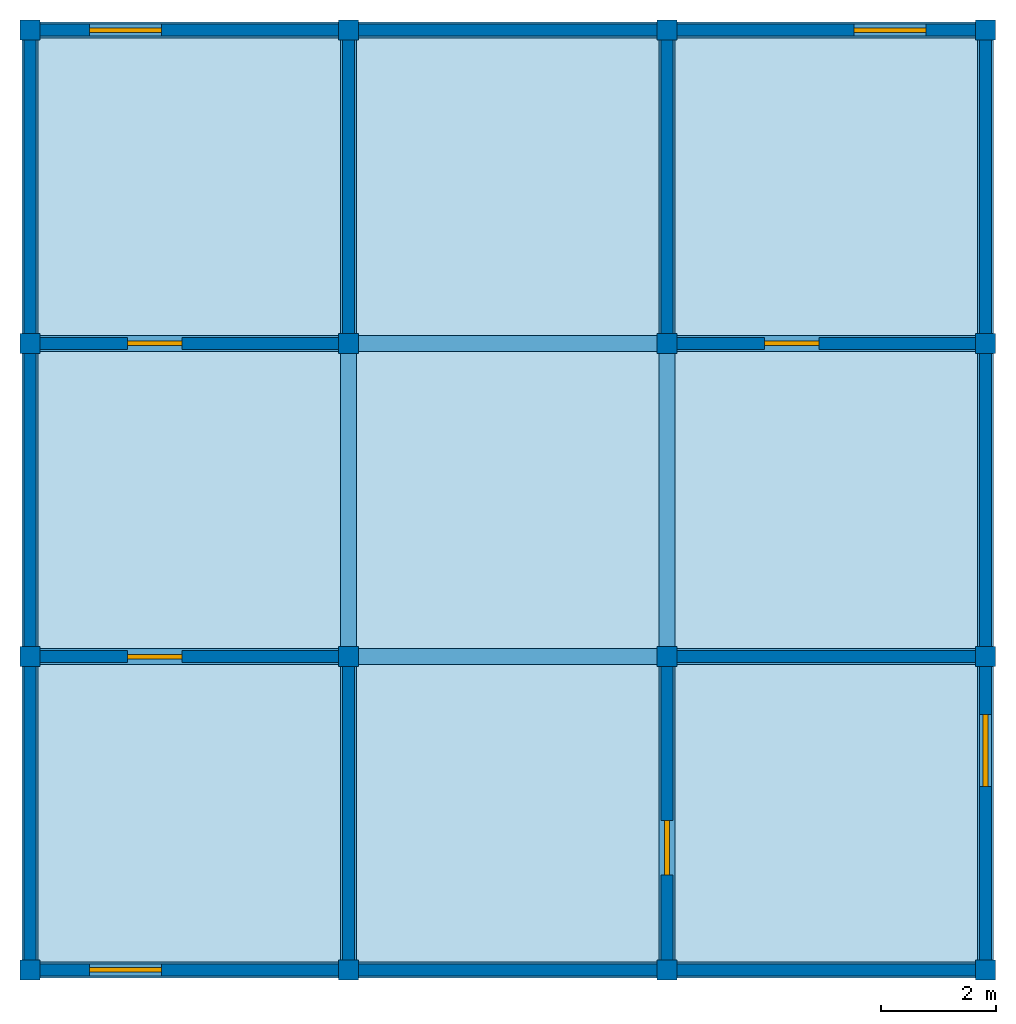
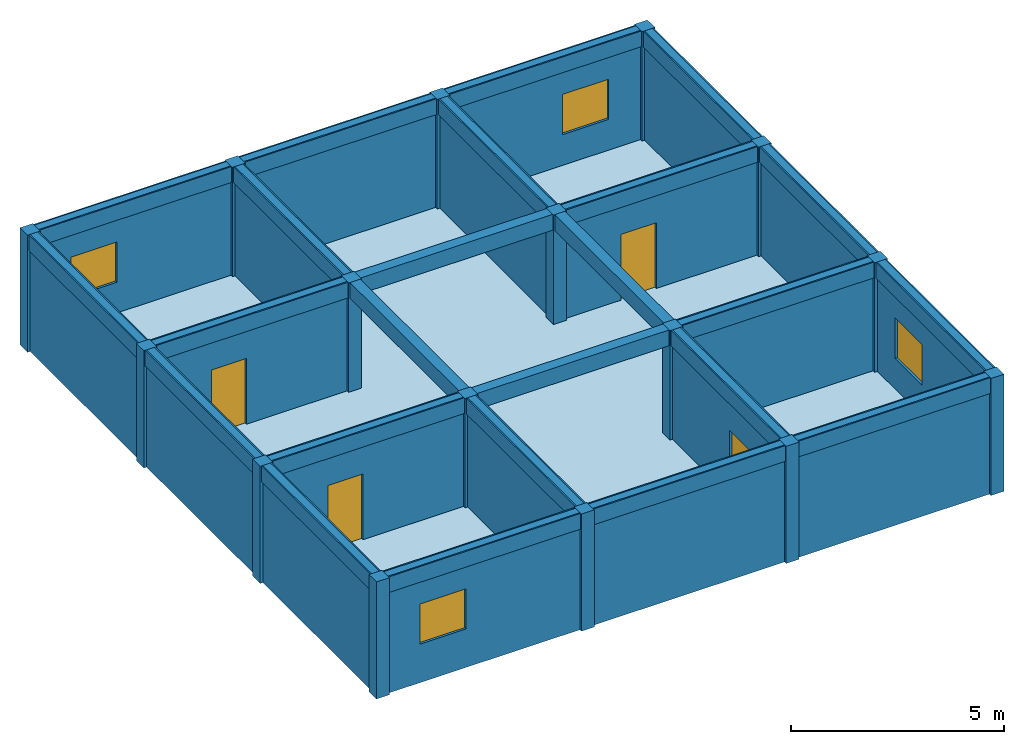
# One storey: 24 beams, 20 walls, 16 columns, 4 doors, 4 windows, 1 slab, 8 openings.
"""IFC4X3 building model written with IfcOpenShell, lengths in metres."""

from ifc_helpers import new_model, si_unit, frame, origin_with_axes, origin_2d, place, context, project, spatial, rectangle, extrude, material, element, fill, save


model = new_model("IFC4X3")

# Units and contexts
model_context = context("Model", 3, precision=1e-05, world=origin_with_axes())
ifc_project = project(units=[si_unit("LENGTHUNIT", "METRE"), si_unit("AREAUNIT", "SQUARE_METRE"), si_unit("VOLUMEUNIT", "CUBIC_METRE")], contexts=[model_context])

# Site, building, storey
site = spatial("IfcSite", under=ifc_project, Name="La Serena Parcel", CompositionType="ELEMENT")
building = spatial("IfcBuilding", under=site, Name="Atlas Building", CompositionType="ELEMENT")
storey = spatial("IfcBuildingStorey", under=building, Name="Level 2", CompositionType="ELEMENT", Elevation=3.35)

# Columns
ifc_material_1 = material(Name="Timber")
column_1_placement = place(None, frame((-8.31, -8.175, 3.349), z_axis=(0.0, 0.0, 1.0), x_axis=(1.0, 0.0, 0.0)))
element("IfcColumn", 1, at=column_1_placement, inside=storey, material=ifc_material_1, Name="Column 2.1", ObjectType="Structural Column", PredefinedType="NOTDEFINED", context=model_context, shape_type="SweptSolid", body=[
    extrude(rectangle(XDim=0.35, YDim=0.35, at=origin_2d()), origin_with_axes(), (0.0, 0.0, 1.0), 3.349),
])
column_2_placement = place(None, frame((-8.31, -2.725, 3.349), z_axis=(0.0, 0.0, 1.0), x_axis=(1.0, 0.0, 0.0)))
element("IfcColumn", 2, at=column_2_placement, inside=storey, material=ifc_material_1, Name="Column 2.2", ObjectType="Core Column", PredefinedType="COLUMN", context=model_context, shape_type="SweptSolid", body=[
    extrude(rectangle(XDim=0.35, YDim=0.35, at=origin_2d()), origin_with_axes(), (0.0, 0.0, 1.0), 3.349),
])
column_3_placement = place(None, frame((-8.31, 2.725, 3.349), z_axis=(0.0, 0.0, 1.0), x_axis=(1.0, 0.0, 0.0)))
element("IfcColumn", 3, at=column_3_placement, inside=storey, material=ifc_material_1, Name="Column 2.3", ObjectType="Facade Column", PredefinedType="COLUMN", context=model_context, shape_type="SweptSolid", body=[
    extrude(rectangle(XDim=0.35, YDim=0.35, at=origin_2d()), origin_with_axes(), (0.0, 0.0, 1.0), 3.349),
])
column_4_placement = place(None, frame((-8.31, 8.175, 3.349), z_axis=(0.0, 0.0, 1.0), x_axis=(1.0, 0.0, 0.0)))
element("IfcColumn", 4, at=column_4_placement, inside=storey, material=ifc_material_1, Name="Column 2.4", ObjectType="Facade Column", PredefinedType="NOTDEFINED", context=model_context, shape_type="SweptSolid", body=[
    extrude(rectangle(XDim=0.35, YDim=0.35, at=origin_2d()), origin_with_axes(), (0.0, 0.0, 1.0), 3.349),
])
column_5_placement = place(None, frame((-2.77, -8.175, 3.349), z_axis=(0.0, 0.0, 1.0), x_axis=(1.0, 0.0, 0.0)))
element("IfcColumn", 5, at=column_5_placement, inside=storey, material=ifc_material_1, Name="Column 2.5", ObjectType="Structural Column", PredefinedType="PILASTER", context=model_context, shape_type="SweptSolid", body=[
    extrude(rectangle(XDim=0.35, YDim=0.35, at=origin_2d()), origin_with_axes(), (0.0, 0.0, 1.0), 3.349),
])
column_6_placement = place(None, frame((-2.77, -2.725, 3.349), z_axis=(0.0, 0.0, 1.0), x_axis=(1.0, 0.0, 0.0)))
element("IfcColumn", 6, at=column_6_placement, inside=storey, material=ifc_material_1, Name="Column 2.6", ObjectType="Core Column", PredefinedType="NOTDEFINED", context=model_context, shape_type="SweptSolid", body=[
    extrude(rectangle(XDim=0.35, YDim=0.35, at=origin_2d()), origin_with_axes(), (0.0, 0.0, 1.0), 3.349),
])
column_7_placement = place(None, frame((-2.77, 2.725, 3.349), z_axis=(0.0, 0.0, 1.0), x_axis=(1.0, 0.0, 0.0)))
element("IfcColumn", 7, at=column_7_placement, inside=storey, material=ifc_material_1, Name="Column 2.7", ObjectType="Structural Column", PredefinedType="USERDEFINED", context=model_context, shape_type="SweptSolid", body=[
    extrude(rectangle(XDim=0.35, YDim=0.35, at=origin_2d()), origin_with_axes(), (0.0, 0.0, 1.0), 3.349),
])
column_8_placement = place(None, frame((-2.77, 8.175, 3.349), z_axis=(0.0, 0.0, 1.0), x_axis=(1.0, 0.0, 0.0)))
element("IfcColumn", 8, at=column_8_placement, inside=storey, material=ifc_material_1, Name="Column 2.8", ObjectType="Core Column", PredefinedType="PILASTER", context=model_context, shape_type="SweptSolid", body=[
    extrude(rectangle(XDim=0.35, YDim=0.35, at=origin_2d()), origin_with_axes(), (0.0, 0.0, 1.0), 3.349),
])
column_9_placement = place(None, frame((2.77, -8.175, 3.349), z_axis=(0.0, 0.0, 1.0), x_axis=(1.0, 0.0, 0.0)))
element("IfcColumn", 9, at=column_9_placement, inside=storey, material=ifc_material_1, Name="Column 2.9", ObjectType="Facade Column", PredefinedType="COLUMN", context=model_context, shape_type="SweptSolid", body=[
    extrude(rectangle(XDim=0.35, YDim=0.35, at=origin_2d()), origin_with_axes(), (0.0, 0.0, 1.0), 3.349),
])
column_10_placement = place(None, frame((2.77, -2.725, 3.349), z_axis=(0.0, 0.0, 1.0), x_axis=(1.0, 0.0, 0.0)))
element("IfcColumn", 10, at=column_10_placement, inside=storey, material=ifc_material_1, Name="Column 2.10", ObjectType="Corner Column", PredefinedType="PILASTER", context=model_context, shape_type="SweptSolid", body=[
    extrude(rectangle(XDim=0.35, YDim=0.35, at=origin_2d()), origin_with_axes(), (0.0, 0.0, 1.0), 3.349),
])
column_11_placement = place(None, frame((2.77, 2.725, 3.349), z_axis=(0.0, 0.0, 1.0), x_axis=(1.0, 0.0, 0.0)))
element("IfcColumn", 11, at=column_11_placement, inside=storey, material=ifc_material_1, Name="Column 2.11", ObjectType="Core Column", PredefinedType="COLUMN", context=model_context, shape_type="SweptSolid", body=[
    extrude(rectangle(XDim=0.35, YDim=0.35, at=origin_2d()), origin_with_axes(), (0.0, 0.0, 1.0), 3.349),
])
column_12_placement = place(None, frame((2.77, 8.175, 3.349), z_axis=(0.0, 0.0, 1.0), x_axis=(1.0, 0.0, 0.0)))
element("IfcColumn", 12, at=column_12_placement, inside=storey, material=ifc_material_1, Name="Column 2.12", ObjectType="Facade Column", PredefinedType="PILASTER", context=model_context, shape_type="SweptSolid", body=[
    extrude(rectangle(XDim=0.35, YDim=0.35, at=origin_2d()), origin_with_axes(), (0.0, 0.0, 1.0), 3.349),
])
for number, where, z_axis, x_axis, name in (
    (13, (8.31, -8.175, 3.349), (0.0, 0.0, 1.0), (1.0, 0.0, 0.0), "Column 2.13"),
    (14, (8.31, -2.725, 3.349), (0.0, 0.0, 1.0), (1.0, 0.0, 0.0), "Column 2.14"),
):
    element("IfcColumn", number, at=place(None, frame(where, z_axis=z_axis, x_axis=x_axis)), inside=storey, material=ifc_material_1, Name=name, ObjectType="Facade Column", PredefinedType="COLUMN", context=model_context, shape_type="SweptSolid", body=[
        extrude(rectangle(XDim=0.35, YDim=0.35, at=origin_2d()), origin_with_axes(), (0.0, 0.0, 1.0), 3.349),
    ])
column_13_placement = place(None, frame((8.31, 2.725, 3.349), z_axis=(0.0, 0.0, 1.0), x_axis=(1.0, 0.0, 0.0)))
element("IfcColumn", 15, at=column_13_placement, inside=storey, material=ifc_material_1, Name="Column 2.15", ObjectType="Core Column", PredefinedType="COLUMN", context=model_context, shape_type="SweptSolid", body=[
    extrude(rectangle(XDim=0.35, YDim=0.35, at=origin_2d()), origin_with_axes(), (0.0, 0.0, 1.0), 3.349),
])
column_14_placement = place(None, frame((8.31, 8.175, 3.349), z_axis=(0.0, 0.0, 1.0), x_axis=(1.0, 0.0, 0.0)))
element("IfcColumn", 16, at=column_14_placement, inside=storey, material=ifc_material_1, Name="Column 2.16", ObjectType="Facade Column", PredefinedType="COLUMN", context=model_context, shape_type="SweptSolid", body=[
    extrude(rectangle(XDim=0.35, YDim=0.35, at=origin_2d()), origin_with_axes(), (0.0, 0.0, 1.0), 3.349),
])

# Beams
ifc_material_2 = material(Name="Concrete")
beam_1_placement = place(None, frame((-5.54, -8.175, 6.248), z_axis=(0.0, 0.0, 1.0), x_axis=(1.0, 0.0, 0.0)))
element("IfcBeam", 17, at=beam_1_placement, inside=storey, material=ifc_material_2, Name="Beam 2.1", ObjectType="Primary Beam", PredefinedType="USERDEFINED", context=model_context, shape_type="SweptSolid", body=[
    extrude(rectangle(XDim=5.54, YDim=0.28, at=origin_2d()), origin_with_axes(), (0.0, 0.0, 1.0), 0.45),
])
beam_2_placement = place(None, frame((0.0, -8.175, 6.248), z_axis=(0.0, 0.0, 1.0), x_axis=(1.0, 0.0, 0.0)))
element("IfcBeam", 18, at=beam_2_placement, inside=storey, material=ifc_material_2, Name="Beam 2.2", ObjectType="Ridge Beam", PredefinedType="USERDEFINED", context=model_context, shape_type="SweptSolid", body=[
    extrude(rectangle(XDim=5.54, YDim=0.28, at=origin_2d()), origin_with_axes(), (0.0, 0.0, 1.0), 0.45),
])
beam_3_placement = place(None, frame((5.54, -8.175, 6.248), z_axis=(0.0, 0.0, 1.0), x_axis=(1.0, 0.0, 0.0)))
element("IfcBeam", 19, at=beam_3_placement, inside=storey, material=ifc_material_2, Name="Beam 2.3", ObjectType="Rafter Beam", PredefinedType="T_BEAM", context=model_context, shape_type="SweptSolid", body=[
    extrude(rectangle(XDim=5.54, YDim=0.28, at=origin_2d()), origin_with_axes(), (0.0, 0.0, 1.0), 0.45),
])
beam_4_placement = place(None, frame((-5.54, -2.725, 6.248), z_axis=(0.0, 0.0, 1.0), x_axis=(1.0, 0.0, 0.0)))
element("IfcBeam", 20, at=beam_4_placement, inside=storey, material=ifc_material_2, Name="Beam 2.4", ObjectType="Ridge Beam", PredefinedType="HOLLOWCORE", context=model_context, shape_type="SweptSolid", body=[
    extrude(rectangle(XDim=5.54, YDim=0.28, at=origin_2d()), origin_with_axes(), (0.0, 0.0, 1.0), 0.45),
])
beam_5_placement = place(None, frame((0.0, -2.725, 6.248), z_axis=(0.0, 0.0, 1.0), x_axis=(1.0, 0.0, 0.0)))
element("IfcBeam", 21, at=beam_5_placement, inside=storey, material=ifc_material_2, Name="Beam 2.5", ObjectType="Ridge Beam", PredefinedType="NOTDEFINED", context=model_context, shape_type="SweptSolid", body=[
    extrude(rectangle(XDim=5.54, YDim=0.28, at=origin_2d()), origin_with_axes(), (0.0, 0.0, 1.0), 0.45),
])
beam_6_placement = place(None, frame((5.54, -2.725, 6.248), z_axis=(0.0, 0.0, 1.0), x_axis=(1.0, 0.0, 0.0)))
element("IfcBeam", 22, at=beam_6_placement, inside=storey, material=ifc_material_2, Name="Beam 2.6", ObjectType="Primary Beam", PredefinedType="T_BEAM", context=model_context, shape_type="SweptSolid", body=[
    extrude(rectangle(XDim=5.54, YDim=0.28, at=origin_2d()), origin_with_axes(), (0.0, 0.0, 1.0), 0.45),
])
beam_7_placement = place(None, frame((-5.54, 2.725, 6.248), z_axis=(0.0, 0.0, 1.0), x_axis=(1.0, 0.0, 0.0)))
element("IfcBeam", 23, at=beam_7_placement, inside=storey, material=ifc_material_2, Name="Beam 2.7", ObjectType="Rafter Beam", PredefinedType="LINTEL", context=model_context, shape_type="SweptSolid", body=[
    extrude(rectangle(XDim=5.54, YDim=0.28, at=origin_2d()), origin_with_axes(), (0.0, 0.0, 1.0), 0.45),
])
beam_8_placement = place(None, frame((0.0, 2.725, 6.248), z_axis=(0.0, 0.0, 1.0), x_axis=(1.0, 0.0, 0.0)))
element("IfcBeam", 24, at=beam_8_placement, inside=storey, material=ifc_material_2, Name="Beam 2.8", ObjectType="Transfer Beam", PredefinedType="SPANDREL", context=model_context, shape_type="SweptSolid", body=[
    extrude(rectangle(XDim=5.54, YDim=0.28, at=origin_2d()), origin_with_axes(), (0.0, 0.0, 1.0), 0.45),
])
beam_9_placement = place(None, frame((5.54, 2.725, 6.248), z_axis=(0.0, 0.0, 1.0), x_axis=(1.0, 0.0, 0.0)))
element("IfcBeam", 25, at=beam_9_placement, inside=storey, material=ifc_material_2, Name="Beam 2.9", ObjectType="Primary Beam", PredefinedType="LINTEL", context=model_context, shape_type="SweptSolid", body=[
    extrude(rectangle(XDim=5.54, YDim=0.28, at=origin_2d()), origin_with_axes(), (0.0, 0.0, 1.0), 0.45),
])
beam_10_placement = place(None, frame((-5.54, 8.175, 6.248), z_axis=(0.0, 0.0, 1.0), x_axis=(1.0, 0.0, 0.0)))
element("IfcBeam", 26, at=beam_10_placement, inside=storey, material=ifc_material_2, Name="Beam 2.10", ObjectType="Primary Beam", PredefinedType="USERDEFINED", context=model_context, shape_type="SweptSolid", body=[
    extrude(rectangle(XDim=5.54, YDim=0.28, at=origin_2d()), origin_with_axes(), (0.0, 0.0, 1.0), 0.45),
])
beam_11_placement = place(None, frame((0.0, 8.175, 6.248), z_axis=(0.0, 0.0, 1.0), x_axis=(1.0, 0.0, 0.0)))
element("IfcBeam", 27, at=beam_11_placement, inside=storey, material=ifc_material_2, Name="Beam 2.11", ObjectType="Primary Beam", PredefinedType="HOLLOWCORE", context=model_context, shape_type="SweptSolid", body=[
    extrude(rectangle(XDim=5.54, YDim=0.28, at=origin_2d()), origin_with_axes(), (0.0, 0.0, 1.0), 0.45),
])
beam_12_placement = place(None, frame((5.54, 8.175, 6.248), z_axis=(0.0, 0.0, 1.0), x_axis=(1.0, 0.0, 0.0)))
element("IfcBeam", 28, at=beam_12_placement, inside=storey, material=ifc_material_2, Name="Beam 2.12", ObjectType="Rafter Beam", PredefinedType="SPANDREL", context=model_context, shape_type="SweptSolid", body=[
    extrude(rectangle(XDim=5.54, YDim=0.28, at=origin_2d()), origin_with_axes(), (0.0, 0.0, 1.0), 0.45),
])
beam_13_placement = place(None, frame((-8.31, -5.45, 6.248), z_axis=(0.0, 0.0, 1.0), x_axis=(0.0, 1.0, 0.0)))
element("IfcBeam", 29, at=beam_13_placement, inside=storey, material=ifc_material_2, Name="Beam 2.13", ObjectType="Ridge Beam", PredefinedType="LINTEL", context=model_context, shape_type="SweptSolid", body=[
    extrude(rectangle(XDim=5.45, YDim=0.28, at=origin_2d()), origin_with_axes(), (0.0, 0.0, 1.0), 0.45),
])
beam_14_placement = place(None, frame((-8.31, 0.0, 6.248), z_axis=(0.0, 0.0, 1.0), x_axis=(0.0, 1.0, 0.0)))
element("IfcBeam", 30, at=beam_14_placement, inside=storey, material=ifc_material_2, Name="Beam 2.14", ObjectType="Primary Beam", PredefinedType="BEAM", context=model_context, shape_type="SweptSolid", body=[
    extrude(rectangle(XDim=5.45, YDim=0.28, at=origin_2d()), origin_with_axes(), (0.0, 0.0, 1.0), 0.45),
])
beam_15_placement = place(None, frame((-8.31, 5.45, 6.248), z_axis=(0.0, 0.0, 1.0), x_axis=(0.0, 1.0, 0.0)))
element("IfcBeam", 31, at=beam_15_placement, inside=storey, material=ifc_material_2, Name="Beam 2.15", ObjectType="Primary Beam", PredefinedType="T_BEAM", context=model_context, shape_type="SweptSolid", body=[
    extrude(rectangle(XDim=5.45, YDim=0.28, at=origin_2d()), origin_with_axes(), (0.0, 0.0, 1.0), 0.45),
])
beam_16_placement = place(None, frame((-2.77, -5.45, 6.248), z_axis=(0.0, 0.0, 1.0), x_axis=(0.0, 1.0, 0.0)))
element("IfcBeam", 32, at=beam_16_placement, inside=storey, material=ifc_material_2, Name="Beam 2.16", ObjectType="Transfer Beam", PredefinedType="NOTDEFINED", context=model_context, shape_type="SweptSolid", body=[
    extrude(rectangle(XDim=5.45, YDim=0.28, at=origin_2d()), origin_with_axes(), (0.0, 0.0, 1.0), 0.45),
])
beam_17_placement = place(None, frame((-2.77, 0.0, 6.248), z_axis=(0.0, 0.0, 1.0), x_axis=(0.0, 1.0, 0.0)))
element("IfcBeam", 33, at=beam_17_placement, inside=storey, material=ifc_material_2, Name="Beam 2.17", ObjectType="Secondary Beam", PredefinedType="JOIST", context=model_context, shape_type="SweptSolid", body=[
    extrude(rectangle(XDim=5.45, YDim=0.28, at=origin_2d()), origin_with_axes(), (0.0, 0.0, 1.0), 0.45),
])
beam_18_placement = place(None, frame((-2.77, 5.45, 6.248), z_axis=(0.0, 0.0, 1.0), x_axis=(0.0, 1.0, 0.0)))
element("IfcBeam", 34, at=beam_18_placement, inside=storey, material=ifc_material_2, Name="Beam 2.18", ObjectType="Transfer Beam", PredefinedType="HOLLOWCORE", context=model_context, shape_type="SweptSolid", body=[
    extrude(rectangle(XDim=5.45, YDim=0.28, at=origin_2d()), origin_with_axes(), (0.0, 0.0, 1.0), 0.45),
])
beam_19_placement = place(None, frame((2.77, -5.45, 6.248), z_axis=(0.0, 0.0, 1.0), x_axis=(0.0, 1.0, 0.0)))
element("IfcBeam", 35, at=beam_19_placement, inside=storey, material=ifc_material_2, Name="Beam 2.19", ObjectType="Primary Beam", PredefinedType="T_BEAM", context=model_context, shape_type="SweptSolid", body=[
    extrude(rectangle(XDim=5.45, YDim=0.28, at=origin_2d()), origin_with_axes(), (0.0, 0.0, 1.0), 0.45),
])
beam_20_placement = place(None, frame((2.77, 0.0, 6.248), z_axis=(0.0, 0.0, 1.0), x_axis=(0.0, 1.0, 0.0)))
element("IfcBeam", 36, at=beam_20_placement, inside=storey, material=ifc_material_2, Name="Beam 2.20", ObjectType="Ridge Beam", PredefinedType="BEAM", context=model_context, shape_type="SweptSolid", body=[
    extrude(rectangle(XDim=5.45, YDim=0.28, at=origin_2d()), origin_with_axes(), (0.0, 0.0, 1.0), 0.45),
])
beam_21_placement = place(None, frame((2.77, 5.45, 6.248), z_axis=(0.0, 0.0, 1.0), x_axis=(0.0, 1.0, 0.0)))
element("IfcBeam", 37, at=beam_21_placement, inside=storey, material=ifc_material_2, Name="Beam 2.21", ObjectType="Transfer Beam", PredefinedType="T_BEAM", context=model_context, shape_type="SweptSolid", body=[
    extrude(rectangle(XDim=5.45, YDim=0.28, at=origin_2d()), origin_with_axes(), (0.0, 0.0, 1.0), 0.45),
])
beam_22_placement = place(None, frame((8.31, -5.45, 6.248), z_axis=(0.0, 0.0, 1.0), x_axis=(0.0, 1.0, 0.0)))
element("IfcBeam", 38, at=beam_22_placement, inside=storey, material=ifc_material_2, Name="Beam 2.22", ObjectType="Rafter Beam", PredefinedType="BEAM", context=model_context, shape_type="SweptSolid", body=[
    extrude(rectangle(XDim=5.45, YDim=0.28, at=origin_2d()), origin_with_axes(), (0.0, 0.0, 1.0), 0.45),
])
beam_23_placement = place(None, frame((8.31, 0.0, 6.248), z_axis=(0.0, 0.0, 1.0), x_axis=(0.0, 1.0, 0.0)))
element("IfcBeam", 39, at=beam_23_placement, inside=storey, material=ifc_material_2, Name="Beam 2.23", ObjectType="Rafter Beam", PredefinedType="HOLLOWCORE", context=model_context, shape_type="SweptSolid", body=[
    extrude(rectangle(XDim=5.45, YDim=0.28, at=origin_2d()), origin_with_axes(), (0.0, 0.0, 1.0), 0.45),
])
beam_24_placement = place(None, frame((8.31, 5.45, 6.248), z_axis=(0.0, 0.0, 1.0), x_axis=(0.0, 1.0, 0.0)))
element("IfcBeam", 40, at=beam_24_placement, inside=storey, material=ifc_material_2, Name="Beam 2.24", ObjectType="Ridge Beam", PredefinedType="LINTEL", context=model_context, shape_type="SweptSolid", body=[
    extrude(rectangle(XDim=5.45, YDim=0.28, at=origin_2d()), origin_with_axes(), (0.0, 0.0, 1.0), 0.45),
])

# Slab
ifc_material_3 = material(Name="Composite")
slab_placement = place(None, frame((0.0, 0.0, 3.35), z_axis=(0.0, 0.0, 1.0), x_axis=(1.0, 0.0, 0.0)))
element("IfcSlab", 41, at=slab_placement, inside=storey, material=ifc_material_3, Name="Slab 2", ObjectType="Floor Slab", PredefinedType="FLOOR", context=model_context, shape_type="SweptSolid", body=[
    extrude(rectangle(XDim=16.62, YDim=16.35, at=origin_2d()), origin_with_axes(), (0.0, 0.0, 1.0), 0.22),
])

# Wall, opening, door
ifc_material_4 = material(Name="CLT")
wall_1_placement = place(None, frame((-5.54, -2.725, 3.349), z_axis=(0.0, 0.0, 1.0), x_axis=(1.0, 0.0, 0.0)))
wall_1 = element("IfcWall", 42, at=wall_1_placement, inside=storey, material=ifc_material_4, Name="Wall 2.1", ObjectType="Corridor Partition", PredefinedType="SHEAR", context=model_context, shape_type="SweptSolid", body=[
    extrude(rectangle(XDim=5.54, YDim=0.207098, at=origin_2d()), origin_with_axes(), (0.0, 0.0, 1.0), 3.349),
])
opening_1_placement = place(None, frame((-6.14, -2.725, 3.349), z_axis=(0.0, 0.0, 1.0), x_axis=(1.0, 0.0, 0.0)))
opening_1 = element("IfcOpeningElement", 43, at=opening_1_placement, cuts=wall_1, Name="Door opening 2.1", ObjectType="Door Opening", PredefinedType="OPENING", context=model_context, shape_type="SweptSolid", body=[
    extrude(rectangle(XDim=0.95, YDim=0.287098, at=origin_2d()), origin_with_axes(), (0.0, 0.0, 1.0), 2.1),
])
door_1_placement = place(None, frame((-6.14, -2.725, 3.349), z_axis=(0.0, 0.0, 1.0), x_axis=(1.0, 0.0, 0.0)))
door_1 = element("IfcDoor", 44, at=door_1_placement, inside=storey, Name="Door 2.1", ObjectType="Interior Door", OverallHeight=2.1, OverallWidth=0.95, context=model_context, shape_type="SweptSolid", body=[
    extrude(rectangle(XDim=0.95, YDim=0.08, at=origin_2d()), origin_with_axes(), (0.0, 0.0, 1.0), 2.1),
])
fill(opening_1, door_1)

# Wall
wall_2_placement = place(None, frame((-2.77, -5.45, 3.349), z_axis=(0.0, 0.0, 1.0), x_axis=(0.0, 1.0, 0.0)))
element("IfcWall", 45, at=wall_2_placement, inside=storey, material=ifc_material_4, Name="Wall 2.2", ObjectType="Corridor Partition", PredefinedType="SOLIDWALL", context=model_context, shape_type="SweptSolid", body=[
    extrude(rectangle(XDim=5.45, YDim=0.207098, at=origin_2d()), origin_with_axes(), (0.0, 0.0, 1.0), 3.349),
])

# Wall, opening, window
ifc_material_5 = material(Name="Gypsum")
wall_3_placement = place(None, frame((-5.54, -8.175, 3.349), z_axis=(0.0, 0.0, 1.0), x_axis=(1.0, 0.0, 0.0)))
wall_3 = element("IfcWall", 46, at=wall_3_placement, inside=storey, material=ifc_material_5, Name="Wall 2.3", ObjectType="Exterior Wall", PredefinedType="SOLIDWALL", context=model_context, shape_type="SweptSolid", body=[
    extrude(rectangle(XDim=5.54, YDim=0.207098, at=origin_2d()), origin_with_axes(), (0.0, 0.0, 1.0), 3.349),
])
opening_2_placement = place(None, frame((-6.648, -8.175, 4.449), z_axis=(0.0, 0.0, 1.0), x_axis=(1.0, 0.0, 0.0)))
opening_2 = element("IfcOpeningElement", 47, at=opening_2_placement, cuts=wall_3, Name="Window opening 2.2", ObjectType="Window Opening", PredefinedType="OPENING", context=model_context, shape_type="SweptSolid", body=[
    extrude(rectangle(XDim=1.25, YDim=0.287098, at=origin_2d()), origin_with_axes(), (0.0, 0.0, 1.0), 1.15),
])
window_1_placement = place(None, frame((-6.648, -8.175, 4.449), z_axis=(0.0, 0.0, 1.0), x_axis=(1.0, 0.0, 0.0)))
window_1 = element("IfcWindow", 48, at=window_1_placement, inside=storey, Name="Window 2.2", ObjectType="Fixed Window", OverallHeight=1.15, OverallWidth=1.25, context=model_context, shape_type="SweptSolid", body=[
    extrude(rectangle(XDim=1.25, YDim=0.08, at=origin_2d()), origin_with_axes(), (0.0, 0.0, 1.0), 1.15),
])
fill(opening_2, window_1)

# Wall
wall_4_placement = place(None, frame((-8.31, -5.45, 3.349), z_axis=(0.0, 0.0, 1.0), x_axis=(0.0, 1.0, 0.0)))
element("IfcWall", 49, at=wall_4_placement, inside=storey, material=ifc_material_2, Name="Wall 2.4", ObjectType="Exterior Wall", PredefinedType="POLYGONAL", context=model_context, shape_type="SweptSolid", body=[
    extrude(rectangle(XDim=5.45, YDim=0.207098, at=origin_2d()), origin_with_axes(), (0.0, 0.0, 1.0), 3.349),
])

# Wall, opening, door
wall_5_placement = place(None, frame((2.77, -5.45, 3.349), z_axis=(0.0, 0.0, 1.0), x_axis=(0.0, 1.0, 0.0)))
wall_5 = element("IfcWall", 50, at=wall_5_placement, inside=storey, material=ifc_material_5, Name="Wall 2.5", ObjectType="Corridor Partition", PredefinedType="NOTDEFINED", context=model_context, shape_type="SweptSolid", body=[
    extrude(rectangle(XDim=5.45, YDim=0.207098, at=origin_2d()), origin_with_axes(), (0.0, 0.0, 1.0), 3.349),
])
opening_3_placement = place(None, frame((2.77, -6.05, 3.349), z_axis=(0.0, 0.0, 1.0), x_axis=(0.0, 1.0, 0.0)))
opening_3 = element("IfcOpeningElement", 51, at=opening_3_placement, cuts=wall_5, Name="Door opening 2.3", ObjectType="Door Opening", PredefinedType="OPENING", context=model_context, shape_type="SweptSolid", body=[
    extrude(rectangle(XDim=0.95, YDim=0.287098, at=origin_2d()), origin_with_axes(), (0.0, 0.0, 1.0), 2.1),
])
door_2_placement = place(None, frame((2.77, -6.05, 3.349), z_axis=(0.0, 0.0, 1.0), x_axis=(0.0, 1.0, 0.0)))
door_2 = element("IfcDoor", 52, at=door_2_placement, inside=storey, Name="Door 2.3", ObjectType="Entry Door", OverallHeight=2.1, OverallWidth=0.95, context=model_context, shape_type="SweptSolid", body=[
    extrude(rectangle(XDim=0.95, YDim=0.08, at=origin_2d()), origin_with_axes(), (0.0, 0.0, 1.0), 2.1),
])
fill(opening_3, door_2)

# Walls
wall_6_placement = place(None, frame((0.0, -8.175, 3.349), z_axis=(0.0, 0.0, 1.0), x_axis=(1.0, 0.0, 0.0)))
element("IfcWall", 53, at=wall_6_placement, inside=storey, material=ifc_material_2, Name="Wall 2.6", ObjectType="Exterior Wall", PredefinedType="POLYGONAL", context=model_context, shape_type="SweptSolid", body=[
    extrude(rectangle(XDim=5.54, YDim=0.207098, at=origin_2d()), origin_with_axes(), (0.0, 0.0, 1.0), 3.349),
])
ifc_material_6 = material(Name="Brick")
wall_7_placement = place(None, frame((5.54, -2.725, 3.349), z_axis=(0.0, 0.0, 1.0), x_axis=(1.0, 0.0, 0.0)))
element("IfcWall", 54, at=wall_7_placement, inside=storey, material=ifc_material_6, Name="Wall 2.7", ObjectType="Corridor Partition", PredefinedType="PARTITIONING", context=model_context, shape_type="SweptSolid", body=[
    extrude(rectangle(XDim=5.54, YDim=0.207098, at=origin_2d()), origin_with_axes(), (0.0, 0.0, 1.0), 3.349),
])

# Wall, opening, window
wall_8_placement = place(None, frame((8.31, -5.45, 3.349), z_axis=(0.0, 0.0, 1.0), x_axis=(0.0, 1.0, 0.0)))
wall_8 = element("IfcWall", 55, at=wall_8_placement, inside=storey, material=ifc_material_2, Name="Wall 2.8", ObjectType="Exterior Wall", PredefinedType="PLUMBINGWALL", context=model_context, shape_type="SweptSolid", body=[
    extrude(rectangle(XDim=5.45, YDim=0.207098, at=origin_2d()), origin_with_axes(), (0.0, 0.0, 1.0), 3.349),
])
opening_4_placement = place(None, frame((8.31, -4.36, 4.449), z_axis=(0.0, 0.0, 1.0), x_axis=(0.0, 1.0, 0.0)))
opening_4 = element("IfcOpeningElement", 56, at=opening_4_placement, cuts=wall_8, Name="Window opening 2.4", ObjectType="Window Opening", PredefinedType="OPENING", context=model_context, shape_type="SweptSolid", body=[
    extrude(rectangle(XDim=1.25, YDim=0.287098, at=origin_2d()), origin_with_axes(), (0.0, 0.0, 1.0), 1.15),
])
window_2_placement = place(None, frame((8.31, -4.36, 4.449), z_axis=(0.0, 0.0, 1.0), x_axis=(0.0, 1.0, 0.0)))
window_2 = element("IfcWindow", 57, at=window_2_placement, inside=storey, Name="Window 2.4", ObjectType="Louvre Window", OverallHeight=1.15, OverallWidth=1.25, context=model_context, shape_type="SweptSolid", body=[
    extrude(rectangle(XDim=1.25, YDim=0.08, at=origin_2d()), origin_with_axes(), (0.0, 0.0, 1.0), 1.15),
])
fill(opening_4, window_2)

# Wall
wall_9_placement = place(None, frame((5.54, -8.175, 3.349), z_axis=(0.0, 0.0, 1.0), x_axis=(1.0, 0.0, 0.0)))
element("IfcWall", 58, at=wall_9_placement, inside=storey, material=ifc_material_5, Name="Wall 2.9", ObjectType="Exterior Wall", PredefinedType="MOVABLE", context=model_context, shape_type="SweptSolid", body=[
    extrude(rectangle(XDim=5.54, YDim=0.207098, at=origin_2d()), origin_with_axes(), (0.0, 0.0, 1.0), 3.349),
])

# Wall, opening, door
wall_10_placement = place(None, frame((-5.54, 2.725, 3.349), z_axis=(0.0, 0.0, 1.0), x_axis=(1.0, 0.0, 0.0)))
wall_10 = element("IfcWall", 59, at=wall_10_placement, inside=storey, material=ifc_material_4, Name="Wall 2.10", ObjectType="Corridor Partition", PredefinedType="ELEMENTEDWALL", context=model_context, shape_type="SweptSolid", body=[
    extrude(rectangle(XDim=5.54, YDim=0.207098, at=origin_2d()), origin_with_axes(), (0.0, 0.0, 1.0), 3.349),
])
opening_5_placement = place(None, frame((-6.14, 2.725, 3.349), z_axis=(0.0, 0.0, 1.0), x_axis=(1.0, 0.0, 0.0)))
opening_5 = element("IfcOpeningElement", 60, at=opening_5_placement, cuts=wall_10, Name="Door opening 2.5", ObjectType="Door Opening", PredefinedType="OPENING", context=model_context, shape_type="SweptSolid", body=[
    extrude(rectangle(XDim=0.95, YDim=0.287098, at=origin_2d()), origin_with_axes(), (0.0, 0.0, 1.0), 2.1),
])
door_3_placement = place(None, frame((-6.14, 2.725, 3.349), z_axis=(0.0, 0.0, 1.0), x_axis=(1.0, 0.0, 0.0)))
door_3 = element("IfcDoor", 61, at=door_3_placement, inside=storey, Name="Door 2.5", ObjectType="Entry Door", OverallHeight=2.1, OverallWidth=0.95, context=model_context, shape_type="SweptSolid", body=[
    extrude(rectangle(XDim=0.95, YDim=0.08, at=origin_2d()), origin_with_axes(), (0.0, 0.0, 1.0), 2.1),
])
fill(opening_5, door_3)

# Wall
wall_11_placement = place(None, frame((-8.31, 0.0, 3.349), z_axis=(0.0, 0.0, 1.0), x_axis=(0.0, 1.0, 0.0)))
element("IfcWall", 62, at=wall_11_placement, inside=storey, material=ifc_material_2, Name="Wall 2.11", ObjectType="Exterior Wall", PredefinedType="POLYGONAL", context=model_context, shape_type="SweptSolid", body=[
    extrude(rectangle(XDim=5.45, YDim=0.207098, at=origin_2d()), origin_with_axes(), (0.0, 0.0, 1.0), 3.349),
])

# Wall, opening, door
wall_12_placement = place(None, frame((5.54, 2.725, 3.349), z_axis=(0.0, 0.0, 1.0), x_axis=(1.0, 0.0, 0.0)))
wall_12 = element("IfcWall", 63, at=wall_12_placement, inside=storey, material=ifc_material_2, Name="Wall 2.12", ObjectType="Corridor Partition", PredefinedType="SHEAR", context=model_context, shape_type="SweptSolid", body=[
    extrude(rectangle(XDim=5.54, YDim=0.207098, at=origin_2d()), origin_with_axes(), (0.0, 0.0, 1.0), 3.349),
])
opening_6_placement = place(None, frame((4.94, 2.725, 3.349), z_axis=(0.0, 0.0, 1.0), x_axis=(1.0, 0.0, 0.0)))
opening_6 = element("IfcOpeningElement", 64, at=opening_6_placement, cuts=wall_12, Name="Door opening 2.7", ObjectType="Door Opening", PredefinedType="OPENING", context=model_context, shape_type="SweptSolid", body=[
    extrude(rectangle(XDim=0.95, YDim=0.287098, at=origin_2d()), origin_with_axes(), (0.0, 0.0, 1.0), 2.1),
])
door_4_placement = place(None, frame((4.94, 2.725, 3.349), z_axis=(0.0, 0.0, 1.0), x_axis=(1.0, 0.0, 0.0)))
door_4 = element("IfcDoor", 65, at=door_4_placement, inside=storey, Name="Door 2.7", ObjectType="Entry Door", OverallHeight=2.1, OverallWidth=0.95, context=model_context, shape_type="SweptSolid", body=[
    extrude(rectangle(XDim=0.95, YDim=0.08, at=origin_2d()), origin_with_axes(), (0.0, 0.0, 1.0), 2.1),
])
fill(opening_6, door_4)

# Wall
wall_13_placement = place(None, frame((8.31, 0.0, 3.349), z_axis=(0.0, 0.0, 1.0), x_axis=(0.0, 1.0, 0.0)))
element("IfcWall", 66, at=wall_13_placement, inside=storey, material=ifc_material_2, Name="Wall 2.13", ObjectType="Exterior Wall", PredefinedType="NOTDEFINED", context=model_context, shape_type="SweptSolid", body=[
    extrude(rectangle(XDim=5.45, YDim=0.207098, at=origin_2d()), origin_with_axes(), (0.0, 0.0, 1.0), 3.349),
])

# Wall, opening, window
wall_14_placement = place(None, frame((-5.54, 8.175, 3.349), z_axis=(0.0, 0.0, 1.0), x_axis=(1.0, 0.0, 0.0)))
wall_14 = element("IfcWall", 67, at=wall_14_placement, inside=storey, material=ifc_material_6, Name="Wall 2.14", ObjectType="Exterior Wall", PredefinedType="STANDARD", context=model_context, shape_type="SweptSolid", body=[
    extrude(rectangle(XDim=5.54, YDim=0.207098, at=origin_2d()), origin_with_axes(), (0.0, 0.0, 1.0), 3.349),
])
opening_7_placement = place(None, frame((-6.648, 8.175, 4.449), z_axis=(0.0, 0.0, 1.0), x_axis=(1.0, 0.0, 0.0)))
opening_7 = element("IfcOpeningElement", 68, at=opening_7_placement, cuts=wall_14, Name="Window opening 2.6", ObjectType="Window Opening", PredefinedType="OPENING", context=model_context, shape_type="SweptSolid", body=[
    extrude(rectangle(XDim=1.25, YDim=0.287098, at=origin_2d()), origin_with_axes(), (0.0, 0.0, 1.0), 1.15),
])
window_3_placement = place(None, frame((-6.648, 8.175, 4.449), z_axis=(0.0, 0.0, 1.0), x_axis=(1.0, 0.0, 0.0)))
window_3 = element("IfcWindow", 69, at=window_3_placement, inside=storey, Name="Window 2.6", ObjectType="Fixed Window", OverallHeight=1.15, OverallWidth=1.25, context=model_context, shape_type="SweptSolid", body=[
    extrude(rectangle(XDim=1.25, YDim=0.08, at=origin_2d()), origin_with_axes(), (0.0, 0.0, 1.0), 1.15),
])
fill(opening_7, window_3)

# Walls
wall_15_placement = place(None, frame((-2.77, 5.45, 3.349), z_axis=(0.0, 0.0, 1.0), x_axis=(0.0, 1.0, 0.0)))
element("IfcWall", 70, at=wall_15_placement, inside=storey, material=ifc_material_2, Name="Wall 2.15", ObjectType="Corridor Partition", PredefinedType="SOLIDWALL", context=model_context, shape_type="SweptSolid", body=[
    extrude(rectangle(XDim=5.45, YDim=0.207098, at=origin_2d()), origin_with_axes(), (0.0, 0.0, 1.0), 3.349),
])
wall_16_placement = place(None, frame((-8.31, 5.45, 3.349), z_axis=(0.0, 0.0, 1.0), x_axis=(0.0, 1.0, 0.0)))
element("IfcWall", 71, at=wall_16_placement, inside=storey, material=ifc_material_2, Name="Wall 2.16", ObjectType="Exterior Wall", PredefinedType="SHEAR", context=model_context, shape_type="SweptSolid", body=[
    extrude(rectangle(XDim=5.45, YDim=0.207098, at=origin_2d()), origin_with_axes(), (0.0, 0.0, 1.0), 3.349),
])
wall_17_placement = place(None, frame((0.0, 8.175, 3.349), z_axis=(0.0, 0.0, 1.0), x_axis=(1.0, 0.0, 0.0)))
element("IfcWall", 72, at=wall_17_placement, inside=storey, material=ifc_material_4, Name="Wall 2.17", ObjectType="Exterior Wall", PredefinedType="USERDEFINED", context=model_context, shape_type="SweptSolid", body=[
    extrude(rectangle(XDim=5.54, YDim=0.207098, at=origin_2d()), origin_with_axes(), (0.0, 0.0, 1.0), 3.349),
])
wall_18_placement = place(None, frame((2.77, 5.45, 3.349), z_axis=(0.0, 0.0, 1.0), x_axis=(0.0, 1.0, 0.0)))
element("IfcWall", 73, at=wall_18_placement, inside=storey, material=ifc_material_4, Name="Wall 2.18", ObjectType="Corridor Partition", PredefinedType="ELEMENTEDWALL", context=model_context, shape_type="SweptSolid", body=[
    extrude(rectangle(XDim=5.45, YDim=0.207098, at=origin_2d()), origin_with_axes(), (0.0, 0.0, 1.0), 3.349),
])

# Wall, opening, window
wall_19_placement = place(None, frame((5.54, 8.175, 3.349), z_axis=(0.0, 0.0, 1.0), x_axis=(1.0, 0.0, 0.0)))
wall_19 = element("IfcWall", 74, at=wall_19_placement, inside=storey, material=ifc_material_6, Name="Wall 2.19", ObjectType="Exterior Wall", PredefinedType="USERDEFINED", context=model_context, shape_type="SweptSolid", body=[
    extrude(rectangle(XDim=5.54, YDim=0.207098, at=origin_2d()), origin_with_axes(), (0.0, 0.0, 1.0), 3.349),
])
opening_8_placement = place(None, frame((6.648, 8.175, 4.449), z_axis=(0.0, 0.0, 1.0), x_axis=(1.0, 0.0, 0.0)))
opening_8 = element("IfcOpeningElement", 75, at=opening_8_placement, cuts=wall_19, Name="Window opening 2.8", ObjectType="Window Opening", PredefinedType="OPENING", context=model_context, shape_type="SweptSolid", body=[
    extrude(rectangle(XDim=1.25, YDim=0.287098, at=origin_2d()), origin_with_axes(), (0.0, 0.0, 1.0), 1.15),
])
window_4_placement = place(None, frame((6.648, 8.175, 4.449), z_axis=(0.0, 0.0, 1.0), x_axis=(1.0, 0.0, 0.0)))
window_4 = element("IfcWindow", 76, at=window_4_placement, inside=storey, Name="Window 2.8", ObjectType="Fixed Window", OverallHeight=1.15, OverallWidth=1.25, context=model_context, shape_type="SweptSolid", body=[
    extrude(rectangle(XDim=1.25, YDim=0.08, at=origin_2d()), origin_with_axes(), (0.0, 0.0, 1.0), 1.15),
])
fill(opening_8, window_4)

# Wall
wall_20_placement = place(None, frame((8.31, 5.45, 3.349), z_axis=(0.0, 0.0, 1.0), x_axis=(0.0, 1.0, 0.0)))
element("IfcWall", 77, at=wall_20_placement, inside=storey, material=ifc_material_4, Name="Wall 2.20", ObjectType="Exterior Wall", PredefinedType="MOVABLE", context=model_context, shape_type="SweptSolid", body=[
    extrude(rectangle(XDim=5.45, YDim=0.207098, at=origin_2d()), origin_with_axes(), (0.0, 0.0, 1.0), 3.349),
])

save(model, "model.ifc")
